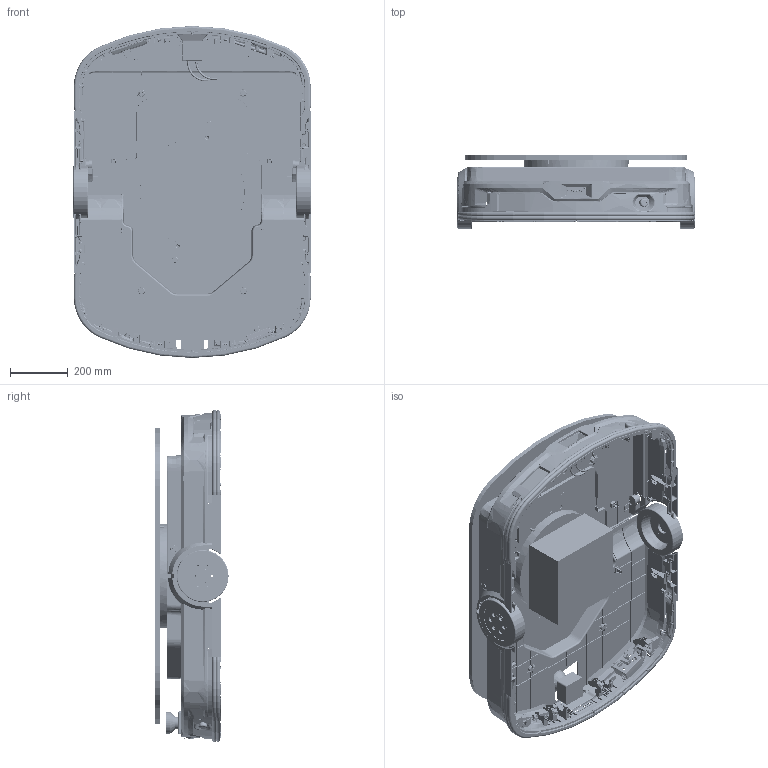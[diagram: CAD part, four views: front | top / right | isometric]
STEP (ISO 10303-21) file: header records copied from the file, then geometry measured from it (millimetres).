
FILE_DESCRIPTION((''),'2;1');
FILE_NAME('__-___SW0001','2023-04-03T10:12:56',('maowenchao'),(''),'CREO PARAMETRIC BY PTC INC, 2020044','CREO PARAMETRIC BY PTC INC, 2020044','');
FILE_SCHEMA(('CONFIG_CONTROL_DESIGN'));
Products named in the file (1): __-___SW0001
Bounding box: 822 x 253.63 x 1150 mm (x, y, z)
Surface area: 5082225.1 mm2 (no closed solid volume)
Topology: 0 solids, 784 shells, 25128 faces, 86420 edges, 61581 vertices
Faces by surface type: plane 15802, cylinder 4356, extrusion 2290, bspline 1273, sphere 584, cone 505, torus 316, revolution 2
Entity records: 1197212 total; most frequent: CARTESIAN_POINT 496589, ORIENTED_EDGE 151908, DIRECTION 120705, EDGE_CURVE 85837, VERTEX_POINT 61579, VECTOR 55669, LINE 53379, AXIS2_PLACEMENT_3D 32517
